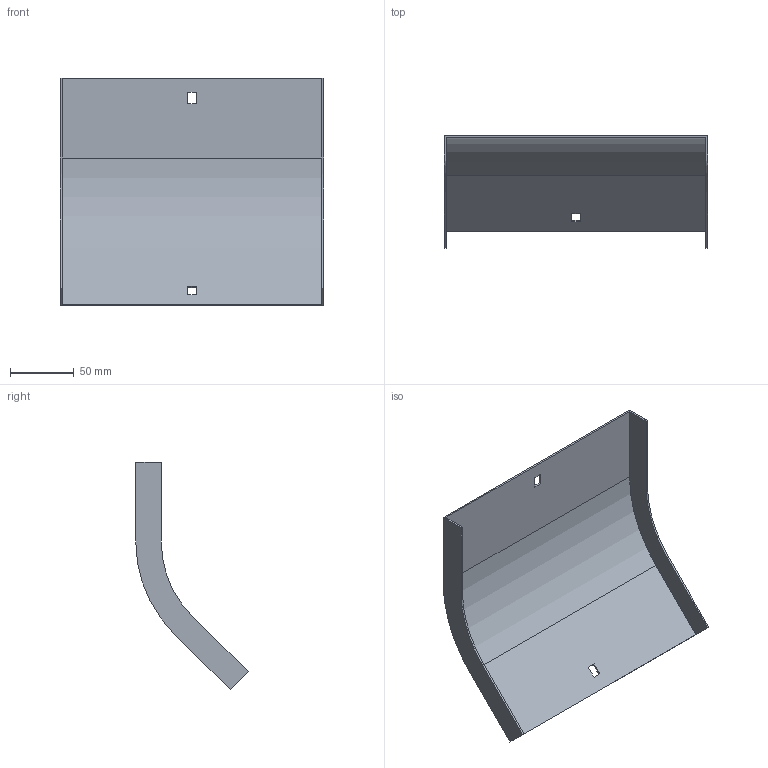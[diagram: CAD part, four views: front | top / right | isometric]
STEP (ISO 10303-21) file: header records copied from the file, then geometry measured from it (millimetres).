
FILE_DESCRIPTION (( 'STEP AP214' ), '1' );
FILE_NAME ('34G1C200.step', '2025-02-21T12:43:22', ( '' ), ( '' ), 'SwSTEP 2.0', 'SolidWorks 2023', '' );
FILE_SCHEMA (( 'AUTOMOTIVE_DESIGN' ));
Length unit declared in the file: millimetre
Products named in the file (1): 34G1C200
Bounding box: 207 x 88.23 x 178.86 mm (x, y, z)
Volume: 74268.1 mm3; surface area: 100419.3 mm2
Topology: 1 solids, 1 shells, 26 faces, 72 edges, 48 vertices
Faces by surface type: plane 22, cylinder 4
Entity records: 855 total; most frequent: CARTESIAN_POINT 147, ORIENTED_EDGE 144, DIRECTION 134, EDGE_CURVE 72, LINE 64, VECTOR 64, VERTEX_POINT 48, AXIS2_PLACEMENT_3D 35
